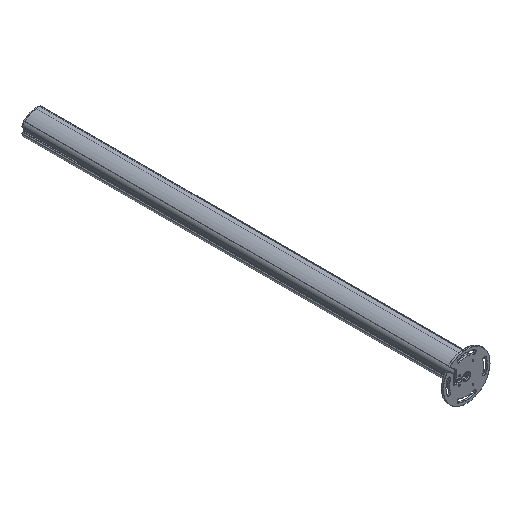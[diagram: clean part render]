
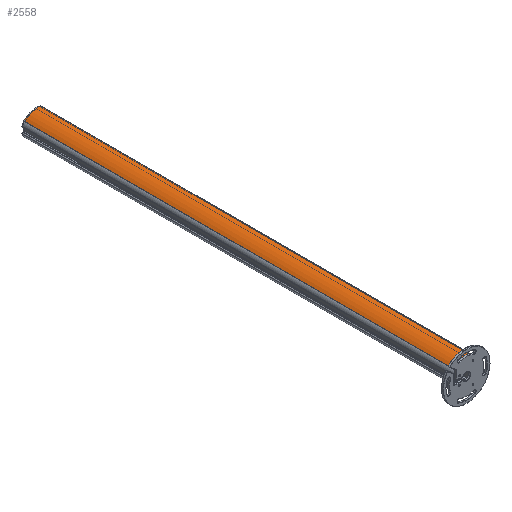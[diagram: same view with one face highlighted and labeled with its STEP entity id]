
A CAD part, isometric view. The second image highlights one B-rep face of the part: STEP entity #2558.
In plain terms, the highlighted cylindrical face has radius 79.059 mm (diameter 158.118 mm), a partial arc.
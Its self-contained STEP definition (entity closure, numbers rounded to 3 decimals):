
#72=CARTESIAN_POINT('',(24.886,-875.,-29.268));
#73=DIRECTION('',(0.,1.,0.));
#74=DIRECTION('',(-0.694,0.,0.72));
#75=AXIS2_PLACEMENT_3D('',#72,#73,#74);
#646=DIRECTION('',(0.,1.,0.));
#647=VECTOR('',#646,1750.);
#648=CARTESIAN_POINT('',(35.448,-875.,49.083));
#649=LINE('',#648,#647);
#650=DIRECTION('',(0.,1.,0.));
#651=VECTOR('',#650,1750.);
#652=CARTESIAN_POINT('',(-30.018,-875.,27.617));
#653=LINE('',#652,#651);
#1015=CARTESIAN_POINT('',(24.886,875.,-29.268));
#1016=DIRECTION('',(0.,1.,0.));
#1017=DIRECTION('',(-0.694,0.,0.72));
#1018=AXIS2_PLACEMENT_3D('',#1015,#1016,#1017);
#1116=CARTESIAN_POINT('',(-30.018,-875.,27.617));
#1117=VERTEX_POINT('',#1116);
#1118=CARTESIAN_POINT('',(35.448,-875.,49.083));
#1119=VERTEX_POINT('',#1118);
#1282=CARTESIAN_POINT('',(-30.018,875.,27.617));
#1283=VERTEX_POINT('',#1282);
#1284=CARTESIAN_POINT('',(35.448,875.,49.083));
#1285=VERTEX_POINT('',#1284);
#2545=CARTESIAN_POINT('',(24.886,-875.,-29.268));
#2546=DIRECTION('',(0.,1.,0.));
#2547=DIRECTION('',(1.,0.,0.));
#2548=AXIS2_PLACEMENT_3D('',#2545,#2546,#2547);
#2549=CYLINDRICAL_SURFACE('',#2548,79.059);
#2550=ORIENTED_EDGE('',*,*,#1453,.F.);
#2552=ORIENTED_EDGE('',*,*,#2551,.T.);
#2554=ORIENTED_EDGE('',*,*,#2553,.T.);
#2555=ORIENTED_EDGE('',*,*,#2537,.F.);
#2556=EDGE_LOOP('',(#2550,#2552,#2554,#2555));
#2557=FACE_OUTER_BOUND('',#2556,.F.);
#2558=ADVANCED_FACE('',(#2557),#2549,.T.);
#76=CIRCLE('',#75,79.059);
#1019=CIRCLE('',#1018,79.059);
#1453=EDGE_CURVE('',#1117,#1119,#76,.T.);
#2537=EDGE_CURVE('',#1119,#1285,#649,.T.);
#2551=EDGE_CURVE('',#1117,#1283,#653,.T.);
#2553=EDGE_CURVE('',#1283,#1285,#1019,.T.);
